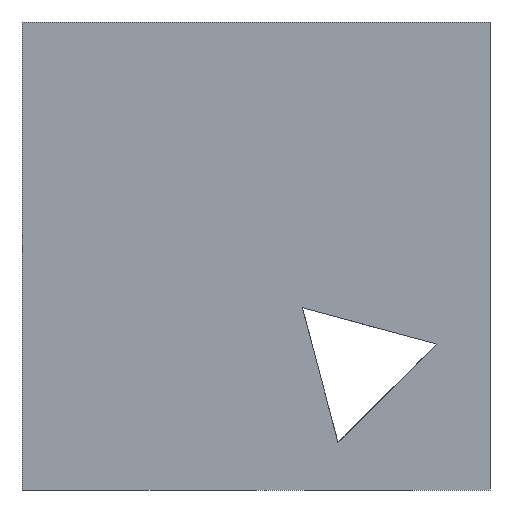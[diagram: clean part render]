
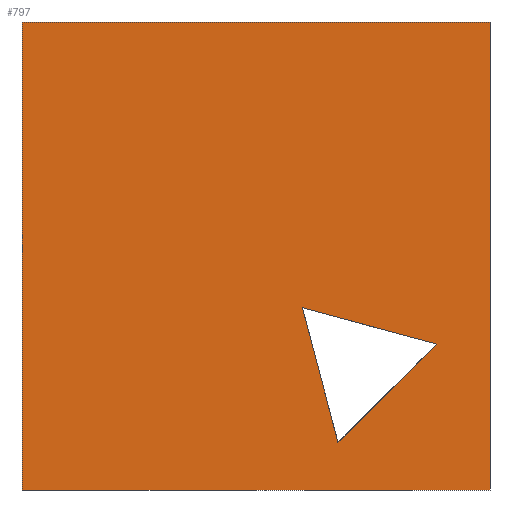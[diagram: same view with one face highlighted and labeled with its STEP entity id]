
A CAD part, left-side view. The second image highlights one B-rep face of the part: STEP entity #797.
In plain terms, the highlighted planar face has unit normal (-1, 0, 0).
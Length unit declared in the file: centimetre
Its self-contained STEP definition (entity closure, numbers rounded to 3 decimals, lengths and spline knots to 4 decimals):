
#4 = DIRECTION ( 'NONE',  ( 0., 0.256, 0.967 ) ) ;
#6 = VERTEX_POINT ( 'NONE', #565 ) ;
#23 = CARTESIAN_POINT ( 'NONE',  ( 0., 114.0506, 311.8362 ) ) ;
#31 = EDGE_LOOP ( 'NONE', ( #1057, #595, #1208, #47 ) ) ;
#32 = CARTESIAN_POINT ( 'NONE',  ( 0., 324.8092, 102.177 ) ) ;
#35 = VECTOR ( 'NONE', #1163, 100. ) ;
#47 = ORIENTED_EDGE ( 'NONE', *, *, #1170, .T. ) ;
#94 = DIRECTION ( 'NONE',  ( 0., -0.965, -0.261 ) ) ;
#143 = VERTEX_POINT ( 'NONE', #1321 ) ;
#144 = CARTESIAN_POINT ( 'NONE',  ( 0., 0., 0. ) ) ;
#149 = LINE ( 'NONE', #32, #1011 ) ;
#175 = CARTESIAN_POINT ( 'NONE',  ( 0., 1000., 0. ) ) ;
#177 = ORIENTED_EDGE ( 'NONE', *, *, #778, .T. ) ;
#192 = EDGE_CURVE ( 'NONE', #1423, #527, #921, .T. ) ;
#207 = DIRECTION ( 'NONE',  ( 0., 0., -1. ) ) ;
#301 = LINE ( 'NONE', #762, #780 ) ;
#307 = DIRECTION ( 'NONE',  ( 1., 0., 0. ) ) ;
#314 = FACE_OUTER_BOUND ( 'NONE', #31, .T. ) ;
#321 = VECTOR ( 'NONE', #94, 100. ) ;
#328 = LINE ( 'NONE', #787, #1467 ) ;
#356 = CARTESIAN_POINT ( 'NONE',  ( 0., 1000., 0. ) ) ;
#378 = EDGE_CURVE ( 'NONE', #764, #143, #436, .T. ) ;
#436 = LINE ( 'NONE', #893, #1441 ) ;
#458 = LINE ( 'NONE', #781, #538 ) ;
#501 = VERTEX_POINT ( 'NONE', #1049 ) ;
#508 = VERTEX_POINT ( 'NONE', #23 ) ;
#527 = VERTEX_POINT ( 'NONE', #144 ) ;
#538 = VECTOR ( 'NONE', #207, 100. ) ;
#541 = EDGE_CURVE ( 'NONE', #508, #764, #149, .T. ) ;
#565 = CARTESIAN_POINT ( 'NONE',  ( 0., 0., 1000. ) ) ;
#595 = ORIENTED_EDGE ( 'NONE', *, *, #1243, .F. ) ;
#646 = CARTESIAN_POINT ( 'NONE',  ( 0., 114.0506, 311.8362 ) ) ;
#660 = DIRECTION ( 'NONE',  ( 0., 0., -1. ) ) ;
#680 = ORIENTED_EDGE ( 'NONE', *, *, #378, .T. ) ;
#762 = CARTESIAN_POINT ( 'NONE',  ( 0., 1000., 1000. ) ) ;
#764 = VERTEX_POINT ( 'NONE', #774 ) ;
#774 = CARTESIAN_POINT ( 'NONE',  ( 0., 324.8092, 102.177 ) ) ;
#778 = EDGE_CURVE ( 'NONE', #143, #508, #1220, .T. ) ;
#780 = VECTOR ( 'NONE', #1342, 100. ) ;
#781 = CARTESIAN_POINT ( 'NONE',  ( 0., 0., 1000. ) ) ;
#787 = CARTESIAN_POINT ( 'NONE',  ( 0., 1000., 1000. ) ) ;
#797 = ADVANCED_FACE ( 'NONE', ( #1442, #314 ), #878, .F. ) ;
#828 = AXIS2_PLACEMENT_3D ( 'NONE', #1329, #307, #660 ) ;
#859 = ORIENTED_EDGE ( 'NONE', *, *, #541, .T. ) ;
#878 = PLANE ( 'NONE',  #828 ) ;
#893 = CARTESIAN_POINT ( 'NONE',  ( 0., 401.0001, 389.5289 ) ) ;
#921 = LINE ( 'NONE', #175, #35 ) ;
#955 = DIRECTION ( 'NONE',  ( 0., 0.709, -0.705 ) ) ;
#1011 = VECTOR ( 'NONE', #955, 100. ) ;
#1021 = DIRECTION ( 'NONE',  ( 0., -1., 0. ) ) ;
#1049 = CARTESIAN_POINT ( 'NONE',  ( 0., 1000., 1000. ) ) ;
#1057 = ORIENTED_EDGE ( 'NONE', *, *, #192, .T. ) ;
#1077 = EDGE_LOOP ( 'NONE', ( #177, #859, #680 ) ) ;
#1163 = DIRECTION ( 'NONE',  ( 0., -1., 0. ) ) ;
#1170 = EDGE_CURVE ( 'NONE', #501, #1423, #301, .T. ) ;
#1208 = ORIENTED_EDGE ( 'NONE', *, *, #1323, .F. ) ;
#1220 = LINE ( 'NONE', #646, #321 ) ;
#1243 = EDGE_CURVE ( 'NONE', #6, #527, #458, .T. ) ;
#1321 = CARTESIAN_POINT ( 'NONE',  ( 0., 401.0001, 389.5289 ) ) ;
#1323 = EDGE_CURVE ( 'NONE', #501, #6, #328, .T. ) ;
#1329 = CARTESIAN_POINT ( 'NONE',  ( 0., 1000., 1000. ) ) ;
#1342 = DIRECTION ( 'NONE',  ( 0., 0., -1. ) ) ;
#1423 = VERTEX_POINT ( 'NONE', #356 ) ;
#1441 = VECTOR ( 'NONE', #4, 100. ) ;
#1442 = FACE_BOUND ( 'NONE', #1077, .T. ) ;
#1467 = VECTOR ( 'NONE', #1021, 100. ) ;
